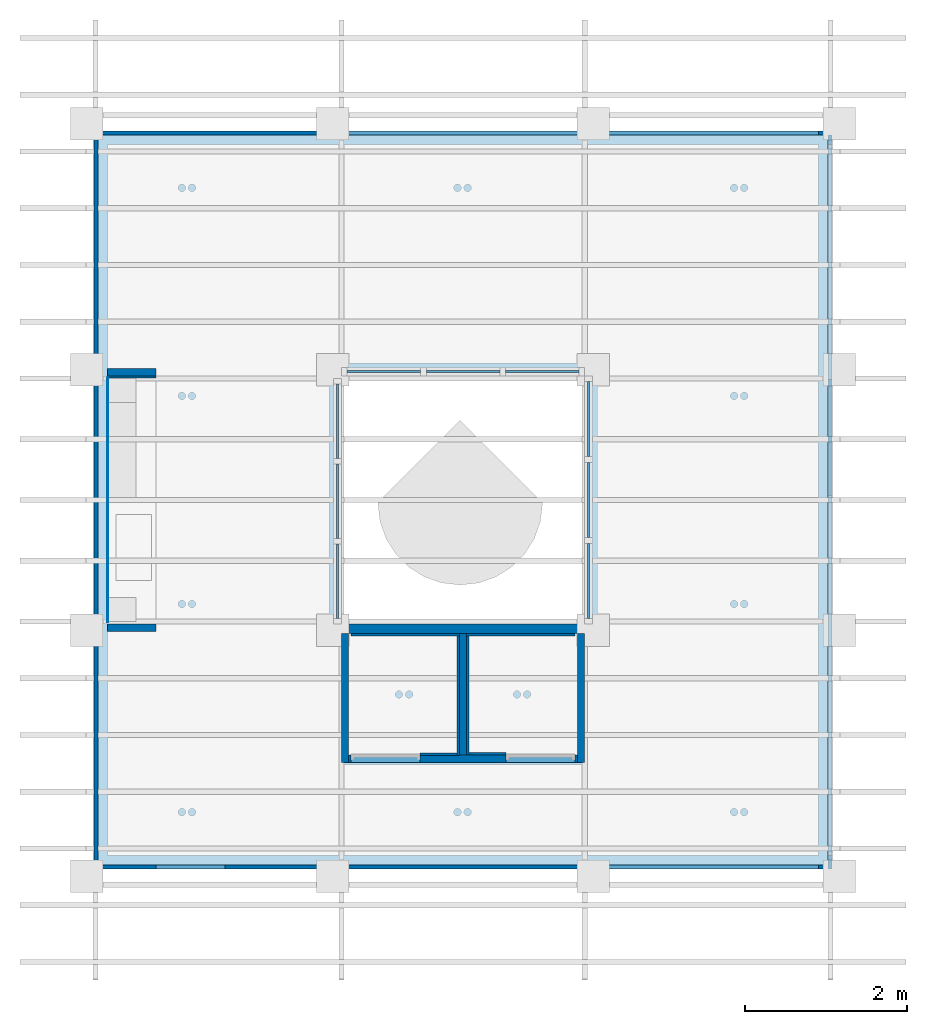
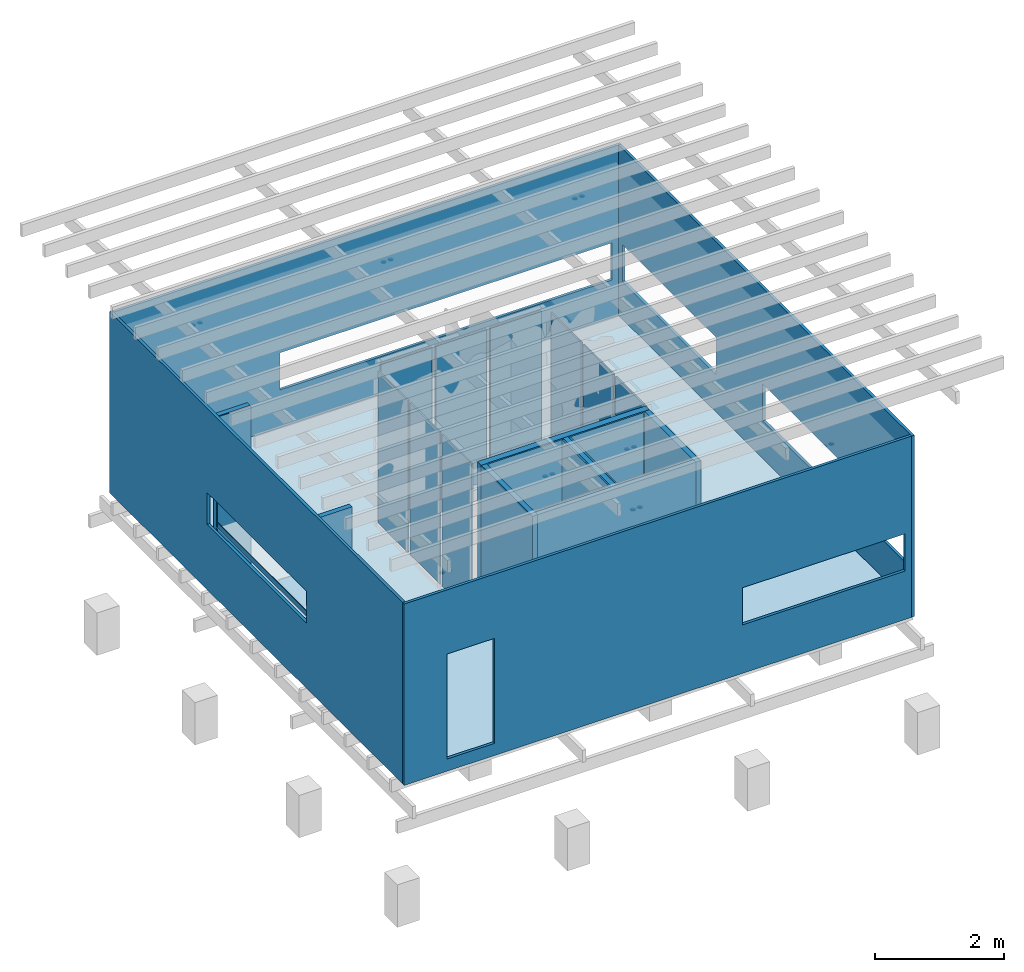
# One storey, part 3 of 5: 19 walls, 9 plates, 1 slab, 11 openings, 3 elements without a shape of their own.
"""IFC2X3 building model written with IfcOpenShell, lengths in centimetres."""

from ifc_helpers import new_model, entity, si_unit, converted_unit, derived_unit, direction, frame, frame_2d, origin, origin_2d_with_axis, place, context, subcontext, project, spatial, rectangle, extrude, boolean, source, transform, mapped, material, layer, layer_set, layer_usage, type_object, type_shapes, element, aggregate, save


model = new_model("IFC2X3")

# Units and contexts
model_context = context("Model", 3, precision=0.001, world=origin(), true_north=direction((6.123233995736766e-17, 1.0)))
body_context = subcontext(model_context, "Body", "Model", "MODEL_VIEW")
ifc_project = project(units=[si_unit("LENGTHUNIT", "METRE", prefix="CENTI"), si_unit("AREAUNIT", "SQUARE_METRE"), si_unit("VOLUMEUNIT", "CUBIC_METRE"), converted_unit("PLANEANGLEUNIT", "DEGREE", entity("IfcPlaneAngleMeasure", 0.017453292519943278), si_unit("PLANEANGLEUNIT", "RADIAN"), dimensions=[0, 0, 0, 0, 0, 0, 0]), si_unit("POWERUNIT", "WATT"), derived_unit("USERDEFINED", [(si_unit("MASSUNIT", "GRAM", prefix="KILO"), 1), (si_unit("TIMEUNIT", "SECOND"), -3)]), si_unit("FORCEUNIT", "NEWTON", prefix="KILO"), derived_unit("THERMALTRANSMITTANCEUNIT", [(si_unit("MASSUNIT", "GRAM", prefix="KILO"), 1), (si_unit("TIMEUNIT", "SECOND"), -3), (si_unit("THERMODYNAMICTEMPERATUREUNIT", "KELVIN"), -1)]), derived_unit("USERDEFINED", [(si_unit("MASSUNIT", "GRAM", prefix="KILO"), 1), (si_unit("THERMODYNAMICTEMPERATUREUNIT", "KELVIN"), -1), (si_unit("TIMEUNIT", "SECOND"), -2)]), derived_unit("THERMALRESISTANCEUNIT", [(si_unit("MASSUNIT", "GRAM", prefix="KILO"), -1), (si_unit("TIMEUNIT", "SECOND"), 3), (si_unit("THERMODYNAMICTEMPERATUREUNIT", "KELVIN"), 1)]), derived_unit("USERDEFINED", [(si_unit("MASSUNIT", "GRAM", prefix="KILO"), -1), (si_unit("TIMEUNIT", "SECOND"), 3), (si_unit("LENGTHUNIT", "METRE"), -2), (si_unit("LUMINOUSFLUXUNIT", "LUMEN"), 1)]), si_unit("LUMINOUSFLUXUNIT", "LUMEN")], contexts=[model_context])

# Site, building, storey
site_placement = place(None, origin())
site = spatial("IfcSite", under=ifc_project, at=site_placement, Name="Default", CompositionType="ELEMENT")
building_placement = place(site_placement, origin())
building = spatial("IfcBuilding", under=site, at=building_placement, Name="Workshop Hbaitáculo - Refugio Tierra del Fuego", CompositionType="ELEMENT")
storey_placement = place(building_placement, frame((0.0, 0.0, 100.0)))
storey = spatial("IfcBuildingStorey", under=building, at=storey_placement, Name="NOG_PISO 1", CompositionType="ELEMENT", Elevation=100.0)

# Slab, opening
ifc_material_1 = material(Name="SIP OSB")
ifc_layer_1 = layer(ifc_material_1, 1.1)
ifc_material_2 = material(Name="SIP Aislamiento - Poliestireno expandido")
ifc_layer_2 = layer(ifc_material_2, 18.8)
ifc_layer_3 = layer(ifc_material_1, 1.1)
ifc_layer_set_1 = layer_set([ifc_layer_1, ifc_layer_2, ifc_layer_3], Name="Suelo:SIP e=210mm")
ifc_layer_usage_1 = layer_usage(ifc_layer_set_1, "AXIS3", "POSITIVE", 0.0)
slab_type = type_object("IfcSlabType", Name="Suelo:SIP e=210mm", PredefinedType="FLOOR", material=ifc_layer_set_1)
slab_placement = place(storey_placement, origin())
slab = element("IfcSlab", 1, at=slab_placement, inside=storey, type_object=slab_type, material=ifc_layer_usage_1, Name="Suelo:SIP e=210mm", ObjectType="Suelo:SIP e=210mm", PredefinedType="FLOOR", context=body_context, shape_type="CSG", body=[
    boolean("DIFFERENCE", extrude(rectangle(XDim=899.9999999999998, YDim=899.9999999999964, at=origin_2d_with_axis()), frame((450.0, -141.0, 21.0), z_axis=(0.0, 0.0, -1.0), x_axis=(0.0, 1.0, 0.0)), (0.0, 0.0, 1.0), 21.000000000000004), extrude(rectangle(XDim=306.49999999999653, YDim=300.0000000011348, at=frame_2d((0.0, -2.842170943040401e-14), x_axis=(1.0, 0.0))), frame((450.0, -141.0, 0.0), z_axis=(0.0, 0.0, 1.0), x_axis=(0.0, 1.0, 0.0)), (0.0, 0.0, 1.0), 21.000000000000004)),
])
opening_1_placement = place(slab_placement, origin())
element("IfcOpeningElement", 2, at=opening_1_placement, cuts=slab, Name="Suelo:SIP e=210mm", ObjectType="Opening", context=body_context, shape_type="SweptSolid", body=[
    extrude(rectangle(XDim=306.4999999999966, YDim=300.0000000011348, at=frame_2d((450.0000000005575, -141.00000000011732), x_axis=(0.0, -1.0))), frame((0.0, 0.0, 21.0)), (0.0, 0.0, -1.0), 21.000000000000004),
])

# Curtain wall, plates
curtain_wall_type = type_object("IfcCurtainWallType", Name="Muro cortina:Ventanas 1 Perfiles 100x35cm v2", PredefinedType="NOTDEFINED")
curtain_wall_1_placement = place(storey_placement, frame((0.0, 0.0, -100.0)))
curtain_wall_1 = element("IfcCurtainWall", 3, at=curtain_wall_1_placement, inside=storey, type_object=curtain_wall_type, Name="Muro cortina:Ventanas 1 Perfiles 100x35cm v2", ObjectType="Muro cortina:Ventanas 1 Perfiles 100x35cm v2")
ifc_material_3 = material(Name="Glass")
plate_type_1 = type_object("IfcPlateType", Name="System Panel:Termopanel 2", PredefinedType="CURTAIN_PANEL", material=ifc_material_3)
shared_shape_1 = source(origin(), body_context, "Body", "SweptSolid", [
    extrude(rectangle(XDim=2.5, YDim=91.75000001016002, at=frame_2d((0.0, 3.552713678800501e-15), x_axis=(1.0, 0.0))), frame((0.0, 0.0, 0.0), z_axis=(0.0, 0.0, 1.0), x_axis=(0.0, 1.0, 0.0)), (0.0, 0.0, 1.0), 285.9999999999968),
])
type_shapes(plate_type_1, [shared_shape_1])
plate_1_placement = place(curtain_wall_1_placement, frame((295.0, -43.87500000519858, 128.0), z_axis=(0.0, 0.0, 1.0), x_axis=(0.0, -1.0, 0.0)))
plate_1 = element("IfcPlate", 4, at=plate_1_placement, type_object=plate_type_1, material=ifc_material_3, Name="System Panel:Termopanel 2", ObjectType="System Panel:Termopanel 2", context=body_context, shape_type="MappedRepresentation", body=[
    mapped(shared_shape_1, transform((0.0, 0.0, 0.0), scale=1.0)),
])
plate_2_placement = place(curtain_wall_1_placement, frame((295.0, -142.6250000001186, 128.0), z_axis=(0.0, 0.0, 1.0), x_axis=(0.0, -1.0, 0.0)))
plate_2 = element("IfcPlate", 5, at=plate_2_placement, type_object=plate_type_1, material=ifc_material_3, Name="System Panel:Termopanel 2", ObjectType="System Panel:Termopanel 2", context=body_context, shape_type="MappedRepresentation", body=[
    mapped(shared_shape_1, transform((0.0, 0.0, 0.0), scale=1.0)),
])
plate_3_placement = place(curtain_wall_1_placement, frame((295.0, -241.37499999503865, 128.0), z_axis=(0.0, 0.0, 1.0), x_axis=(0.0, -1.0, 0.0)))
plate_3 = element("IfcPlate", 6, at=plate_3_placement, type_object=plate_type_1, material=ifc_material_3, Name="System Panel:Termopanel 2", ObjectType="System Panel:Termopanel 2", context=body_context, shape_type="MappedRepresentation", body=[
    mapped(shared_shape_1, transform((0.0, 0.0, 0.0), scale=1.0)),
])
aggregate(curtain_wall_1, [plate_1, plate_2, plate_3])

curtain_wall_2_placement = place(storey_placement, frame((0.0, 0.0, -100.0)))
curtain_wall_2 = element("IfcCurtainWall", 7, at=curtain_wall_2_placement, inside=storey, type_object=curtain_wall_type, Name="Muro cortina:Ventanas 1 Perfiles 100x35cm v2", ObjectType="Muro cortina:Ventanas 1 Perfiles 100x35cm v2")
plate_type_2 = type_object("IfcPlateType", Name="System Panel:Termopanel 2", PredefinedType="CURTAIN_PANEL", material=ifc_material_3)
shared_shape_2 = source(origin(), body_context, "Body", "SweptSolid", [
    extrude(rectangle(XDim=2.5, YDim=92.83333334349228, at=origin_2d_with_axis()), frame((0.0, 0.0, 0.0), z_axis=(0.0, 0.0, 1.0), x_axis=(0.0, 1.0, 0.0)), (0.0, 0.0, 1.0), 285.9999999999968),
])
type_shapes(plate_type_2, [shared_shape_2])
plate_4_placement = place(curtain_wall_2_placement, frame((605.0000000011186, -41.16666667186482, 128.0), z_axis=(0.0, 0.0, 1.0), x_axis=(0.0, -1.0, 0.0)))
plate_4 = element("IfcPlate", 8, at=plate_4_placement, type_object=plate_type_2, material=ifc_material_3, Name="System Panel:Termopanel 2", ObjectType="System Panel:Termopanel 2", context=body_context, shape_type="MappedRepresentation", body=[
    mapped(shared_shape_2, transform((0.0, 0.0, 0.0), scale=1.0)),
])
plate_5_placement = place(curtain_wall_2_placement, frame((605.0000000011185, -141.0, 128.0), z_axis=(0.0, 0.0, 1.0), x_axis=(0.0, -1.0, 0.0)))
plate_5 = element("IfcPlate", 9, at=plate_5_placement, type_object=plate_type_2, material=ifc_material_3, Name="System Panel:Termopanel 2", ObjectType="System Panel:Termopanel 2", context=body_context, shape_type="MappedRepresentation", body=[
    mapped(shared_shape_2, transform((0.0, 0.0, 0.0), scale=1.0)),
])
plate_6_placement = place(curtain_wall_2_placement, frame((605.0000000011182, -240.83333332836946, 128.0), z_axis=(0.0, 0.0, 1.0), x_axis=(0.0, -1.0, 0.0)))
plate_6 = element("IfcPlate", 10, at=plate_6_placement, type_object=plate_type_2, material=ifc_material_3, Name="System Panel:Termopanel 2", ObjectType="System Panel:Termopanel 2", context=body_context, shape_type="MappedRepresentation", body=[
    mapped(shared_shape_2, transform((0.0, 0.0, 0.0), scale=1.0)),
])
aggregate(curtain_wall_2, [plate_4, plate_5, plate_6])

curtain_wall_3_placement = place(storey_placement, frame((0.0, 0.0, -100.0)))
curtain_wall_3 = element("IfcCurtainWall", 11, at=curtain_wall_3_placement, inside=storey, type_object=curtain_wall_type, Name="Muro cortina:Ventanas 1 Perfiles 100x35cm v2", ObjectType="Muro cortina:Ventanas 1 Perfiles 100x35cm v2")
plate_type_3 = type_object("IfcPlateType", Name="System Panel:Termopanel 2", PredefinedType="CURTAIN_PANEL", material=ifc_material_3)
shared_shape_3 = source(origin(), body_context, "Body", "SweptSolid", [
    extrude(rectangle(XDim=2.5, YDim=90.66666667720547, at=origin_2d_with_axis()), frame((0.0, 0.0, 0.0), z_axis=(0.0, 0.0, 1.0), x_axis=(0.0, 1.0, 0.0)), (0.0, 0.0, 1.0), 285.9999999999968),
])
type_shapes(plate_type_3, [shared_shape_3])
plate_7_placement = place(curtain_wall_3_placement, frame((352.33333333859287, 17.249999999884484, 128.0)))
plate_7 = element("IfcPlate", 12, at=plate_7_placement, type_object=plate_type_3, material=ifc_material_3, Name="System Panel:Termopanel 2", ObjectType="System Panel:Termopanel 2", context=body_context, shape_type="MappedRepresentation", body=[
    mapped(shared_shape_3, transform((0.0, 0.0, 0.0), scale=1.0)),
])
plate_8_placement = place(curtain_wall_3_placement, frame((450.0, 17.249999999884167, 128.0)))
plate_8 = element("IfcPlate", 13, at=plate_8_placement, type_object=plate_type_3, material=ifc_material_3, Name="System Panel:Termopanel 2", ObjectType="System Panel:Termopanel 2", context=body_context, shape_type="MappedRepresentation", body=[
    mapped(shared_shape_3, transform((0.0, 0.0, 0.0), scale=1.0)),
])
plate_9_placement = place(curtain_wall_3_placement, frame((547.6666666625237, 17.24999999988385, 128.0)))
plate_9 = element("IfcPlate", 14, at=plate_9_placement, type_object=plate_type_3, material=ifc_material_3, Name="System Panel:Termopanel 2", ObjectType="System Panel:Termopanel 2", context=body_context, shape_type="MappedRepresentation", body=[
    mapped(shared_shape_3, transform((0.0, 0.0, 0.0), scale=1.0)),
])
aggregate(curtain_wall_3, [plate_7, plate_8, plate_9])

# Wall
ifc_layer_4 = layer(ifc_material_1, 1.1)
ifc_layer_5 = layer(ifc_material_2, 9.5)
ifc_layer_6 = layer(ifc_material_1, 1.1)
ifc_layer_set_2 = layer_set([ifc_layer_4, ifc_layer_5, ifc_layer_6], Name="Muro básico:Panel SiP perimetral 117mm")
ifc_layer_usage_2 = layer_usage(ifc_layer_set_2, "AXIS2", "POSITIVE", -5.849999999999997)
wall_type_1 = type_object("IfcWallType", Name="Muro básico:Panel SiP perimetral 117mm", PredefinedType="STANDARD", material=ifc_layer_set_2)
wall_1_placement = place(storey_placement, frame((300.0, -299.9500000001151, 21.0)))
element("IfcWallStandardCase", 15, at=wall_1_placement, inside=storey, type_object=wall_type_1, material=ifc_layer_usage_2, Name="Muro básico:Panel SiP perimetral 117mm", ObjectType="Muro básico:Panel SiP perimetral 117mm", context=body_context, shape_type="SweptSolid", body=[
    extrude(rectangle(XDim=300.00000000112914, YDim=11.700000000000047, at=frame_2d((150.00000000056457, 0.0), x_axis=(-1.0, 0.0))), origin(), (0.0, 0.0, 1.0), 299.99999999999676),
])

# Wall, openings
ifc_material_4 = material(Name="Revestimiento Exterior Muros")
ifc_layer_7 = layer(ifc_material_4, 3.0)
ifc_material_5 = material(Name="Exterior revestimiento vertical aire")
ifc_layer_8 = layer(ifc_material_5, 2.0)
ifc_layer_set_3 = layer_set([ifc_layer_7, ifc_layer_8], Name="Muro básico:Fachada Revestimiento")
ifc_layer_usage_3 = layer_usage(ifc_layer_set_3, "AXIS2", "POSITIVE", -2.5)
wall_type_2 = type_object("IfcWallType", Name="Muro básico:Fachada Revestimiento", PredefinedType="STANDARD", material=ifc_layer_set_3)
wall_2_placement = place(storey_placement, frame((-5.0, -593.5000000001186, 0.0)))
wall_2 = element("IfcWallStandardCase", 16, at=wall_2_placement, inside=storey, type_object=wall_type_2, material=ifc_layer_usage_3, Name="Muro básico:Fachada Revestimiento", ObjectType="Muro básico:Fachada Revestimiento", context=body_context, shape_type="SweptSolid", body=[
    extrude(rectangle(XDim=905.0000000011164, YDim=4.999999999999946, at=frame_2d((452.5000000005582, 0.0), x_axis=(-1.0, 0.0))), origin(), (0.0, 0.0, 1.0), 341.9999999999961),
])
opening_2_placement = place(wall_2_placement, origin())
element("IfcOpeningElement", 17, at=opening_2_placement, cuts=wall_2, Name="Muro básico:Fachada Revestimiento", ObjectType="Opening", context=body_context, shape_type="SweptSolid", body=[
    extrude(rectangle(XDim=197.9999999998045, YDim=84.99999999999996, at=frame_2d((-1.4210854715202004e-14, -7.105427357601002e-15), x_axis=(1.0, 0.0))), frame((118.89999999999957, 2.499999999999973, 122.0), z_axis=(0.0, -1.0, 0.0), x_axis=(0.0, 0.0, 1.0)), (0.0, 0.0, 1.0), 5.0),
])
opening_3_placement = place(wall_2_placement, origin())
element("IfcOpeningElement", 18, at=opening_3_placement, cuts=wall_2, Name="Muro básico:Fachada Revestimiento", ObjectType="Opening", context=body_context, shape_type="SweptSolid", body=[
    extrude(rectangle(XDim=69.99999999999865, YDim=290.0, at=frame_2d((-2.842170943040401e-14, 5.684341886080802e-14), x_axis=(1.0, 0.0))), frame((748.6000000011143, 2.5000000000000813, 126.50000000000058), z_axis=(0.0, -1.0, 0.0), x_axis=(0.0, 0.0, -1.0)), (0.0, 0.0, 1.0), 5.0),
])

# Wall, opening
ifc_layer_usage_4 = layer_usage(ifc_layer_set_3, "AXIS2", "POSITIVE", -2.5)
wall_3_placement = place(storey_placement, frame((-2.4999999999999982, 314.0, 0.0), z_axis=(0.0, 0.0, 1.0), x_axis=(0.0, -1.0, 0.0)))
wall_3 = element("IfcWallStandardCase", 19, at=wall_3_placement, inside=storey, type_object=wall_type_2, material=ifc_layer_usage_4, Name="Muro básico:Fachada Revestimiento", ObjectType="Muro básico:Fachada Revestimiento", context=body_context, shape_type="SweptSolid", body=[
    extrude(rectangle(XDim=905.0000000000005, YDim=5.0, at=frame_2d((452.5000000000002, 0.0), x_axis=(-1.0, 0.0))), origin(), (0.0, 0.0, 1.0), 341.9999999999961),
])
opening_4_placement = place(wall_3_placement, origin())
element("IfcOpeningElement", 20, at=opening_4_placement, cuts=wall_3, Name="Muro básico:Fachada Revestimiento", ObjectType="Opening", context=body_context, shape_type="SweptSolid", body=[
    extrude(rectangle(XDim=59.999999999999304, YDim=307.000000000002, at=frame_2d((0.0, 2.6645352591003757e-14), x_axis=(0.0, 1.0))), frame((454.74999999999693, 2.5, 153.0), z_axis=(0.0, -1.0, 0.0), x_axis=(1.0, 0.0, 0.0)), (0.0, 0.0, 1.0), 5.0),
])

ifc_layer_usage_5 = layer_usage(ifc_layer_set_3, "AXIS2", "POSITIVE", -2.5)
wall_4_placement = place(storey_placement, frame((905.0000000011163, 311.4999999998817, 0.0), z_axis=(0.0, 0.0, 1.0), x_axis=(-1.0, 0.0, 0.0)))
wall_4 = element("IfcWallStandardCase", 21, at=wall_4_placement, inside=storey, type_object=wall_type_2, material=ifc_layer_usage_5, Name="Muro básico:Fachada Revestimiento", ObjectType="Muro básico:Fachada Revestimiento", context=body_context, shape_type="SweptSolid", body=[
    extrude(rectangle(XDim=905.0000000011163, YDim=5.000000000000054, at=frame_2d((452.50000000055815, -2.220446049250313e-16), x_axis=(-1.0, 0.0))), origin(), (0.0, 0.0, 1.0), 341.9999999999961),
])
opening_5_placement = place(wall_4_placement, origin())
element("IfcOpeningElement", 22, at=opening_5_placement, cuts=wall_4, Name="Muro básico:Fachada Revestimiento", ObjectType="Opening", context=body_context, shape_type="SweptSolid", body=[
    extrude(rectangle(XDim=69.9999999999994, YDim=592.2243577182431, at=frame_2d((0.0, -5.684341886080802e-14), x_axis=(1.0, 0.0))), frame((312.5121788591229, 2.500000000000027, 126.50000000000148), z_axis=(0.0, -1.0, 0.0), x_axis=(0.0, 0.0, -1.0)), (0.0, 0.0, 1.0), 5.0),
])

# Wall, openings
ifc_layer_usage_6 = layer_usage(ifc_layer_set_3, "AXIS2", "POSITIVE", -2.5)
wall_5_placement = place(storey_placement, frame((902.5000000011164, -596.0, 0.0), z_axis=(0.0, 0.0, 1.0), x_axis=(0.0, 1.0, 0.0)))
wall_5 = element("IfcWallStandardCase", 23, at=wall_5_placement, inside=storey, type_object=wall_type_2, material=ifc_layer_usage_6, Name="Muro básico:Fachada Revestimiento", ObjectType="Muro básico:Fachada Revestimiento", context=body_context, shape_type="SweptSolid", body=[
    extrude(rectangle(XDim=905.0000000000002, YDim=4.999999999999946, at=frame_2d((452.5000000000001, 0.0), x_axis=(-1.0, 0.0))), origin(), (0.0, 0.0, 1.0), 341.9999999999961),
])
opening_6_placement = place(wall_5_placement, origin())
element("IfcOpeningElement", 24, at=opening_6_placement, cuts=wall_5, Name="Muro básico:Fachada Revestimiento", ObjectType="Opening", context=body_context, shape_type="SweptSolid", body=[
    extrude(rectangle(XDim=69.9999999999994, YDim=443.9999999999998, at=frame_2d((1.4210854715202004e-14, 0.0), x_axis=(0.0, 1.0))), frame((238.40000000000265, 2.4999999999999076, 126.500000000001), z_axis=(0.0, -1.0, 0.0), x_axis=(-1.0, 0.0, 0.0)), (0.0, 0.0, 1.0), 5.0),
])
opening_7_placement = place(wall_5_placement, origin())
element("IfcOpeningElement", 25, at=opening_7_placement, cuts=wall_5, Name="Muro básico:Fachada Revestimiento", ObjectType="Opening", context=body_context, shape_type="SweptSolid", body=[
    extrude(rectangle(XDim=69.9999999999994, YDim=290.0000000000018, at=frame_2d((2.842170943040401e-14, 2.842170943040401e-14), x_axis=(1.0, 0.0))), frame((748.5999999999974, 2.4999999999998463, 126.50000000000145), z_axis=(0.0, -1.0, 0.0), x_axis=(0.0, 0.0, 1.0)), (0.0, 0.0, 1.0), 5.0),
])

# Wall
ifc_layer_9 = layer(ifc_material_1, 1.1)
ifc_layer_10 = layer(ifc_material_2, 6.8)
ifc_layer_11 = layer(ifc_material_1, 1.1)
ifc_layer_set_4 = layer_set([ifc_layer_9, ifc_layer_10, ifc_layer_11], Name="Muro básico:Panel SiP Interior 90mm")
ifc_layer_usage_7 = layer_usage(ifc_layer_set_4, "AXIS2", "NEGATIVE", 4.4999999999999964)
wall_type_3 = type_object("IfcWallType", Name="Muro básico:Panel SiP Interior 90mm", PredefinedType="STANDARD", material=ifc_layer_set_4)
wall_6_placement = place(storey_placement, frame((304.4999999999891, -305.80000000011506, 21.0), z_axis=(0.0, 0.0, 1.0), x_axis=(0.0, -1.0, 0.0)))
element("IfcWallStandardCase", 26, at=wall_6_placement, inside=storey, type_object=wall_type_3, material=ifc_layer_usage_7, Name="Muro básico:Panel SiP Interior 90mm", ObjectType="Muro básico:Panel SiP Interior 90mm", context=body_context, shape_type="SweptSolid", body=[
    extrude(rectangle(XDim=158.84999999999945, YDim=9.00000000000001, at=frame_2d((79.42499999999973, 7.105427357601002e-15), x_axis=(-1.0, 0.0))), origin(), (0.0, 0.0, 1.0), 300.0000000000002),
])

# Wall, openings
ifc_layer_usage_8 = layer_usage(ifc_layer_set_4, "AXIS2", "NEGATIVE", 4.4999999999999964)
wall_7_placement = place(storey_placement, frame((309.0, -460.1500000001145, 21.0)))
wall_7 = element("IfcWallStandardCase", 27, at=wall_7_placement, inside=storey, type_object=wall_type_3, material=ifc_layer_usage_8, Name="Muro básico:Panel SiP Interior 90mm", ObjectType="Muro básico:Panel SiP Interior 90mm", context=body_context, shape_type="SweptSolid", body=[
    extrude(rectangle(XDim=282.00000000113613, YDim=9.00000000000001, at=frame_2d((141.00000000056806, 3.8191672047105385e-14), x_axis=(-1.0, 0.0))), origin(), (0.0, 0.0, 1.0), 300.00000000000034),
])
opening_8_placement = place(wall_7_placement, frame((3.0, -4.500000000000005, 2.0)))
element("IfcOpeningElement", 28, at=opening_8_placement, cuts=wall_7, Name="TBC-P-PuertaSimpleMadera:TBC-ARQ-Puerta Simple Madera-P1-0.75x2.10:1", ObjectType="Opening", context=body_context, shape_type="SweptSolid", body=[
    extrude(rectangle(XDim=196.9999999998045, YDim=84.99999999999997, at=frame_2d((98.49999999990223, 42.499999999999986), x_axis=(1.0, 0.0))), frame((0.0, 0.0, 0.0), z_axis=(0.0, 1.0, 0.0), x_axis=(0.0, 0.0, 1.0)), (0.0, 0.0, 1.0), 8.999999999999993),
])
opening_9_placement = place(wall_7_placement, frame((194.00000000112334, -4.500000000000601, 2.0)))
element("IfcOpeningElement", 29, at=opening_9_placement, cuts=wall_7, Name="TBC-P-PuertaSimpleMadera:TBC-ARQ-Puerta Simple Madera-P1-0.75x2.10:1", ObjectType="Opening", context=body_context, shape_type="SweptSolid", body=[
    extrude(rectangle(XDim=196.9999999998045, YDim=84.99999999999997, at=frame_2d((98.49999999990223, 42.50000000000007), x_axis=(1.0, 0.0))), frame((0.0, 0.0, 0.0), z_axis=(0.0, 1.0, 0.0), x_axis=(0.0, 0.0, 1.0)), (0.0, 0.0, 1.0), 8.999999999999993),
])

# Walls
ifc_layer_usage_9 = layer_usage(ifc_layer_set_4, "AXIS2", "NEGATIVE", 4.4999999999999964)
wall_8_placement = place(storey_placement, frame((450.0, -455.6500000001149, 21.0), z_axis=(0.0, 0.0, 1.0), x_axis=(0.0, 1.0, 0.0)))
element("IfcWallStandardCase", 30, at=wall_8_placement, inside=storey, type_object=wall_type_3, material=ifc_layer_usage_9, Name="Muro básico:Panel SiP Interior 90mm", ObjectType="Muro básico:Panel SiP Interior 90mm", context=body_context, shape_type="SweptSolid", body=[
    extrude(rectangle(XDim=149.9999999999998, YDim=9.00000000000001, at=frame_2d((74.9999999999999, -1.199040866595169e-14), x_axis=(-1.0, 0.0))), origin(), (0.0, 0.0, 1.0), 300.00000000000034),
])
ifc_layer_usage_10 = layer_usage(ifc_layer_set_4, "AXIS2", "POSITIVE", -4.4999999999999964)
wall_9_placement = place(storey_placement, frame((595.5000000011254, -305.80000000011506, 21.0), z_axis=(0.0, 0.0, 1.0), x_axis=(0.0, -1.0, 0.0)))
element("IfcWallStandardCase", 31, at=wall_9_placement, inside=storey, type_object=wall_type_3, material=ifc_layer_usage_10, Name="Muro básico:Panel SiP Interior 90mm", ObjectType="Muro básico:Panel SiP Interior 90mm", context=body_context, shape_type="SweptSolid", body=[
    extrude(rectangle(XDim=158.85000000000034, YDim=8.999999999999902, at=frame_2d((79.42500000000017, 0.0), x_axis=(-1.0, 0.0))), origin(), (0.0, 0.0, 1.0), 300.0000000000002),
])
ifc_layer_usage_11 = layer_usage(ifc_layer_set_4, "AXIS2", "NEGATIVE", 4.4999999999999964)
wall_10_placement = place(storey_placement, frame((71.4, -298.75000000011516, 21.0), z_axis=(0.0, 0.0, 1.0), x_axis=(-1.0, 0.0, 0.0)))
element("IfcWallStandardCase", 32, at=wall_10_placement, inside=storey, type_object=wall_type_3, material=ifc_layer_usage_11, Name="Muro básico:Panel SiP Interior 90mm", ObjectType="Muro básico:Panel SiP Interior 90mm", context=body_context, shape_type="SweptSolid", body=[
    extrude(rectangle(XDim=59.85000000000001, YDim=9.00000000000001, at=frame_2d((29.925000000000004, -7.993605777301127e-15), x_axis=(-1.0, 0.0))), origin(), (0.0, 0.0, 1.0), 300.0000000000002),
])
ifc_layer_usage_12 = layer_usage(ifc_layer_set_4, "AXIS2", "POSITIVE", -4.4999999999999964)
wall_11_placement = place(storey_placement, frame((71.40000000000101, 16.74999999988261, 21.0), z_axis=(0.0, 0.0, 1.0), x_axis=(-1.0, 0.0, 0.0)))
element("IfcWallStandardCase", 33, at=wall_11_placement, inside=storey, type_object=wall_type_3, material=ifc_layer_usage_12, Name="Muro básico:Panel SiP Interior 90mm", ObjectType="Muro básico:Panel SiP Interior 90mm", context=body_context, shape_type="SweptSolid", body=[
    extrude(rectangle(XDim=59.85000000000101, YDim=8.999999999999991, at=frame_2d((29.925000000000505, 4.440892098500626e-16), x_axis=(-1.0, 0.0))), origin(), (0.0, 0.0, 1.0), 300.0000000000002),
])
ifc_material_6 = material(Name="Rev Melamina tipo madera")
ifc_layer_12 = layer(ifc_material_6, 1.5)
ifc_material_7 = material(Name="Volcanita ST")
ifc_layer_13 = layer(ifc_material_7, 1.0)
ifc_layer_set_5 = layer_set([ifc_layer_12, ifc_layer_13], Name="Muro básico:Rev Volcanita ST +  Melamina tipo madera")
ifc_layer_usage_13 = layer_usage(ifc_layer_set_5, "AXIS2", "POSITIVE", -1.25)
wall_type_4 = type_object("IfcWallType", Name="Muro básico:Rev Volcanita ST +  Melamina tipo madera", PredefinedType="STANDARD", material=ifc_layer_set_5)
wall_12_placement = place(storey_placement, frame((11.549999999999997, 11.0, 1.0)))
element("IfcWallStandardCase", 34, at=wall_12_placement, inside=storey, type_object=wall_type_4, material=ifc_layer_usage_13, Name="Muro básico:Rev Volcanita ST +  Melamina tipo madera", ObjectType="Muro básico:Rev Volcanita ST +  Melamina tipo madera", context=body_context, shape_type="SweptSolid", body=[
    extrude(rectangle(XDim=59.850000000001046, YDim=2.5, at=frame_2d((29.925000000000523, -1.1102230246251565e-16), x_axis=(-1.0, 0.0))), origin(), (0.0, 0.0, 1.0), 319.99999999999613),
])
ifc_material_8 = material(Name="Retorno Cubierta cocina")
ifc_layer_14 = layer(ifc_material_8, 1.0)
ifc_layer_set_6 = layer_set([ifc_layer_14], Name="Muro básico:Retorno Cubierta cocina")
ifc_layer_usage_14 = layer_usage(ifc_layer_set_6, "AXIS2", "NEGATIVE", 0.5000000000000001)
wall_type_5 = type_object("IfcWallType", Name="Muro básico:Retorno Cubierta cocina", PredefinedType="STANDARD", material=ifc_layer_set_6)
wall_13_placement = place(storey_placement, frame((11.899999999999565, 9.749999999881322, 113.0), z_axis=(0.0, 0.0, 1.0), x_axis=(0.0, -1.0, 0.0)))
element("IfcWallStandardCase", 35, at=wall_13_placement, inside=storey, type_object=wall_type_5, material=ifc_layer_usage_14, Name="Muro básico:Retorno Cubierta cocina", ObjectType="Muro básico:Retorno Cubierta cocina", context=body_context, shape_type="SweptSolid", body=[
    extrude(rectangle(XDim=301.4999999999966, YDim=0.9999999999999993, at=frame_2d((150.7499999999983, 0.0), x_axis=(-1.0, 0.0))), origin(), (0.0, 0.0, 1.0), 10.000000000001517),
])
ifc_material_9 = material(Name="Volcanita ZH")
ifc_layer_15 = layer(ifc_material_9, 1.25)
ifc_material_10 = material(Name="Rev Porcelanato ZH")
ifc_layer_16 = layer(ifc_material_10, 1.75)
ifc_layer_set_7 = layer_set([ifc_layer_15, ifc_layer_16], Name="Muro básico:Rev Porcelanato ZH")
ifc_layer_usage_15 = layer_usage(ifc_layer_set_7, "AXIS2", "NEGATIVE", 1.5)
wall_type_6 = type_object("IfcWallType", Name="Muro básico:Rev Porcelanato ZH", PredefinedType="STANDARD", material=ifc_layer_set_7)
wall_14_placement = place(storey_placement, frame((312.0, -307.15000000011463, 2.0)))
element("IfcWallStandardCase", 36, at=wall_14_placement, inside=storey, type_object=wall_type_6, material=ifc_layer_usage_15, Name="Muro básico:Rev Porcelanato ZH", ObjectType="Muro básico:Rev Porcelanato ZH", context=body_context, shape_type="SweptSolid", body=[
    extrude(rectangle(XDim=133.5000000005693, YDim=2.9999999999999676, at=frame_2d((66.75000000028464, 3.9968028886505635e-15), x_axis=(-1.0, 0.0))), origin(), (0.0, 0.0, 1.0), 318.9999999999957),
])
ifc_layer_usage_16 = layer_usage(ifc_layer_set_7, "AXIS2", "NEGATIVE", 1.5)
wall_15_placement = place(storey_placement, frame((444.0, -308.650000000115, 2.0), z_axis=(0.0, 0.0, 1.0), x_axis=(0.0, -1.0, 0.0)))
element("IfcWallStandardCase", 37, at=wall_15_placement, inside=storey, type_object=wall_type_6, material=ifc_layer_usage_16, Name="Muro básico:Rev Porcelanato ZH", ObjectType="Muro básico:Rev Porcelanato ZH", context=body_context, shape_type="SweptSolid", body=[
    extrude(rectangle(XDim=147.49999999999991, YDim=2.9999999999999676, at=frame_2d((73.74999999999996, 0.0), x_axis=(-1.0, 0.0))), origin(), (0.0, 0.0, 1.0), 318.9999999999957),
])

# Wall, opening
ifc_layer_usage_17 = layer_usage(ifc_layer_set_7, "AXIS2", "NEGATIVE", 1.5)
wall_16_placement = place(storey_placement, frame((442.50000000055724, -454.65000000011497, 2.0), z_axis=(0.0, 0.0, 1.0), x_axis=(-1.0, 0.0, 0.0)))
wall_16 = element("IfcWallStandardCase", 38, at=wall_16_placement, inside=storey, type_object=wall_type_6, material=ifc_layer_usage_17, Name="Muro básico:Rev Porcelanato ZH", ObjectType="Muro básico:Rev Porcelanato ZH", context=body_context, shape_type="SweptSolid", body=[
    extrude(rectangle(XDim=130.500000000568, YDim=2.9999999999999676, at=frame_2d((65.250000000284, -1.1102230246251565e-16), x_axis=(-1.0, 0.0))), origin(), (0.0, 0.0, 1.0), 318.9999999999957),
])
opening_10_placement = place(wall_16_placement, origin())
element("IfcOpeningElement", 39, at=opening_10_placement, cuts=wall_16, Name="Muro básico:Rev Porcelanato ZH", ObjectType="Opening", context=body_context, shape_type="SweptSolid", body=[
    extrude(rectangle(XDim=217.99999999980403, YDim=85.0, at=frame_2d((2.842170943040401e-14, 0.0), x_axis=(0.0, 1.0))), frame((88.0, 1.4999999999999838, 109.0), z_axis=(0.0, -1.0, 0.0), x_axis=(1.0, 0.0, 0.0)), (0.0, 0.0, 1.0), 3.0),
])

# Walls
ifc_layer_usage_18 = layer_usage(ifc_layer_set_7, "AXIS2", "POSITIVE", -1.5)
wall_17_placement = place(storey_placement, frame((588.0000000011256, -307.15000000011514, 2.0), z_axis=(0.0, 0.0, 1.0), x_axis=(-1.0, 0.0, 0.0)))
element("IfcWallStandardCase", 40, at=wall_17_placement, inside=storey, type_object=wall_type_6, material=ifc_layer_usage_18, Name="Muro básico:Rev Porcelanato ZH", ObjectType="Muro básico:Rev Porcelanato ZH", context=body_context, shape_type="SweptSolid", body=[
    extrude(rectangle(XDim=133.50000000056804, YDim=2.9999999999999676, at=frame_2d((66.75000000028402, 1.3322676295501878e-14), x_axis=(-1.0, 0.0))), origin(), (0.0, 0.0, 1.0), 318.9999999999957),
])
ifc_layer_usage_19 = layer_usage(ifc_layer_set_7, "AXIS2", "POSITIVE", -1.5)
wall_18_placement = place(storey_placement, frame((456.0, -308.6500000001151, 2.0), z_axis=(0.0, 0.0, 1.0), x_axis=(0.0, -1.0, 0.0)))
element("IfcWallStandardCase", 41, at=wall_18_placement, inside=storey, type_object=wall_type_6, material=ifc_layer_usage_19, Name="Muro básico:Rev Porcelanato ZH", ObjectType="Muro básico:Rev Porcelanato ZH", context=body_context, shape_type="SweptSolid", body=[
    extrude(rectangle(XDim=146.99999999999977, YDim=2.9999999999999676, at=frame_2d((73.49999999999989, 1.3988810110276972e-14), x_axis=(-1.0, 0.0))), origin(), (0.0, 0.0, 1.0), 318.9999999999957),
])

# Wall, opening
ifc_layer_usage_20 = layer_usage(ifc_layer_set_7, "AXIS2", "POSITIVE", -1.5)
wall_19_placement = place(storey_placement, frame((457.50000000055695, -454.15000000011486, 2.0)))
wall_19 = element("IfcWallStandardCase", 42, at=wall_19_placement, inside=storey, type_object=wall_type_6, material=ifc_layer_usage_20, Name="Muro básico:Rev Porcelanato ZH", ObjectType="Muro básico:Rev Porcelanato ZH", context=body_context, shape_type="SweptSolid", body=[
    extrude(rectangle(XDim=131.4999999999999, YDim=2.9999999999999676, at=frame_2d((65.74999999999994, -1.5210055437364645e-14), x_axis=(-1.0, 0.0))), origin(), (0.0, 0.0, 1.0), 318.9999999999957),
])
opening_11_placement = place(wall_19_placement, origin())
element("IfcOpeningElement", 43, at=opening_11_placement, cuts=wall_19, Name="Muro básico:Rev Porcelanato ZH", ObjectType="Opening", context=body_context, shape_type="SweptSolid", body=[
    extrude(rectangle(XDim=217.99999999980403, YDim=85.9999999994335, at=frame_2d((5.3290705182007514e-14, 0.0), x_axis=(0.0, 1.0))), frame((88.50000000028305, 1.4999999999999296, 109.0), z_axis=(0.0, -1.0, 0.0), x_axis=(1.0, 0.0, 0.0)), (0.0, 0.0, 1.0), 3.0),
])

save(model, "model.ifc")
